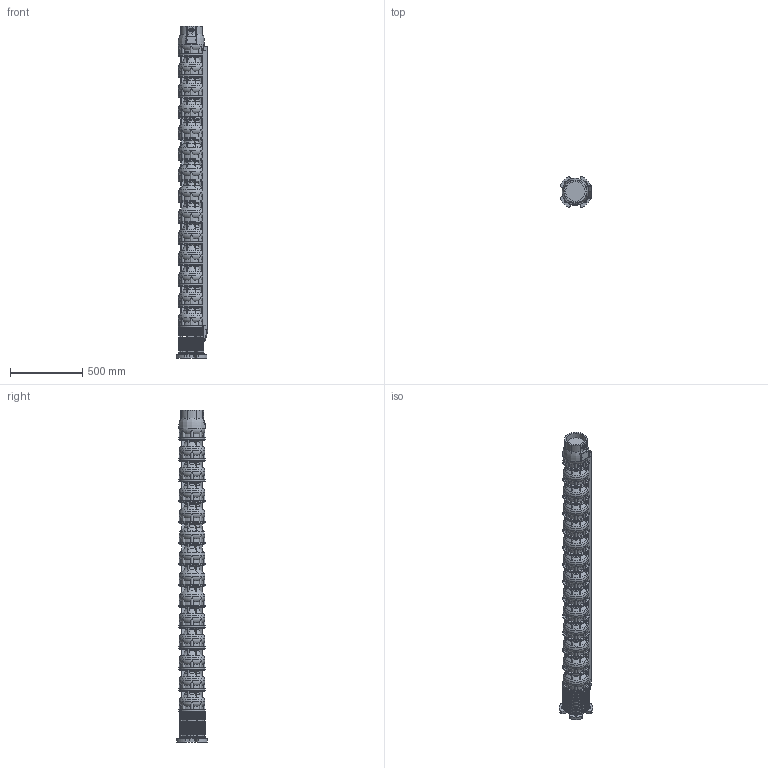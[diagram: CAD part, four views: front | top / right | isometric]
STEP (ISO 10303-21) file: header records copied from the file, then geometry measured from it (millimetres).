
FILE_DESCRIPTION(/* description */ ('Unknown'),/* implementation_level */ '2;1');
FILE_NAME(/* name */ 'VSI134-13_WR_M10-50_DME',/* time_stamp */ '2023-09-14T14:35:26+02:00',/* author */ ('Unknown'),/* organization */ ('Unknown'),/* preprocessor_version */ 'ST-DEVELOPER v18.102',/* originating_system */ 'Solid Edge',/* authorisation */ 'Unknown');
FILE_SCHEMA (('AUTOMOTIVE_DESIGN {1 0 10303 214 3 1 1}'));
Products named in the file (12): VSI134-13_WR_M10-50_DME; VSI134_testata; VSI134_diffusore; VSI134_supporto_8×8; VSI134_adattatore_8×10; VSI134_filtro_A; VSI134_filtro_B; VSI134_terminale_top_copricavo_medio; VSI134_terminale_bottom_copricavo_medio; MID 134-13; M5X8_UNI7687; VSI134_giunto_8×10
Assembly tree (32 placements, depth 2):
  VSI134-13_WR_M10-50_DME
    VSI134_testata
    VSI134_diffusore  x13
    VSI134_supporto_8×8
    VSI134_adattatore_8×10
    VSI134_filtro_A
    VSI134_filtro_B
    VSI134_terminale_top_copricavo_medio
    VSI134_terminale_bottom_copricavo_medio
    MID 134-13
    M5X8_UNI7687  x10
    VSI134_giunto_8×10
Bounding box: 221.78 x 213.16 x 2303 mm (x, y, z)
Volume: 42461828.5 mm3; surface area: 3324503 mm2
Topology: 71 solids, 73 shells, 4655 faces, 13101 edges, 8749 vertices
Faces by surface type: plane 3336, torus 613, cylinder 597, cone 66, bspline 31, sphere 12
Full cylindrical faces by diameter (mm): 2.4 x2, 3 x2, 4.2 x16, 5 x10, 5.5 x8, 14 x4, 16 x4, 17.5 x4, 26 x1, 30 x4, 44 x1, 65 x1, 69 x1, 74 x1, 84 x1, 98 x1, 127 x2, 135.472 x1, 157 x1, 182 x14
Entity records: 85339 total; most frequent: CARTESIAN_POINT 18297, ORIENTED_EDGE 13946, DIRECTION 13458, EDGE_CURVE 6973, VERTEX_POINT 4707, AXIS2_PLACEMENT_3D 4607, LINE 4244, VECTOR 4244
